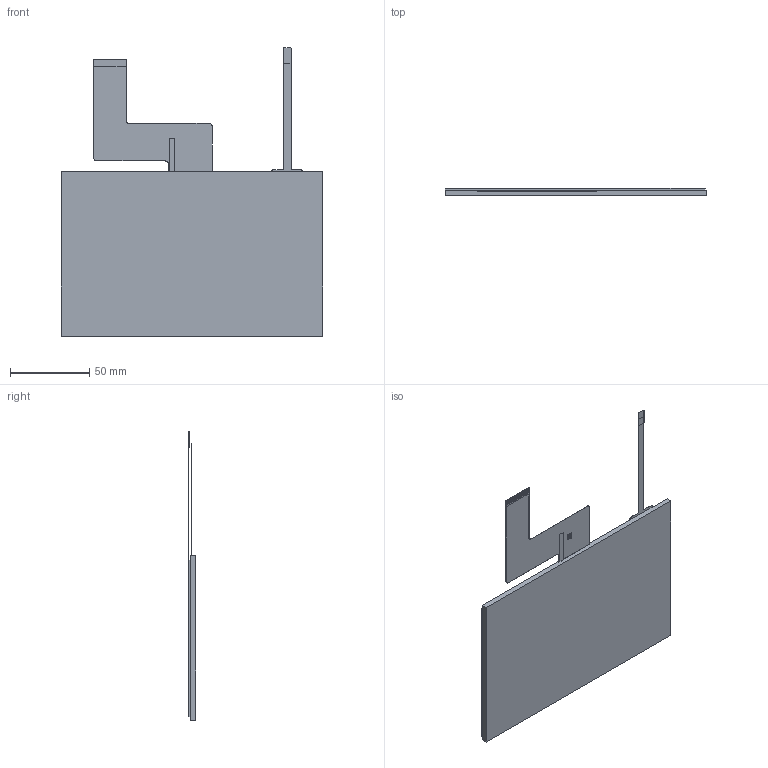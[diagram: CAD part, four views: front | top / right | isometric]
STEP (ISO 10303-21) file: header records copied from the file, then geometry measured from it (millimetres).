
FILE_DESCRIPTION (( 'STEP AP214' ), '1' );
FILE_NAME ('NHD-7.0-800480EF-T.STEP', '2017-08-21T13:20:31', ( '' ), ( '' ), 'SwSTEP 2.0', 'SolidWorks 2017', '' );
FILE_SCHEMA (( 'AUTOMOTIVE_DESIGN' ));
Length unit declared in the file: millimetre
Products named in the file (3): NHD-7.0-TP; NHD-7.0-800480EF; NHD-7.0-800480EF-T
Assembly tree (2 placements, depth 2):
  NHD-7.0-800480EF-T
    NHD-7.0-800480EF
    NHD-7.0-TP
Bounding box: 165 x 4.7 x 182.17 mm (x, y, z)
Volume: 96564.2 mm3; surface area: 131836.1 mm2
Topology: 4 solids, 4 shells, 247 faces, 696 edges, 464 vertices
Faces by surface type: plane 237, cylinder 10
Entity records: 7958 total; most frequent: CARTESIAN_POINT 1412, ORIENTED_EDGE 1392, DIRECTION 1220, EDGE_CURVE 696, LINE 676, VECTOR 676, VERTEX_POINT 464, AXIS2_PLACEMENT_3D 272
